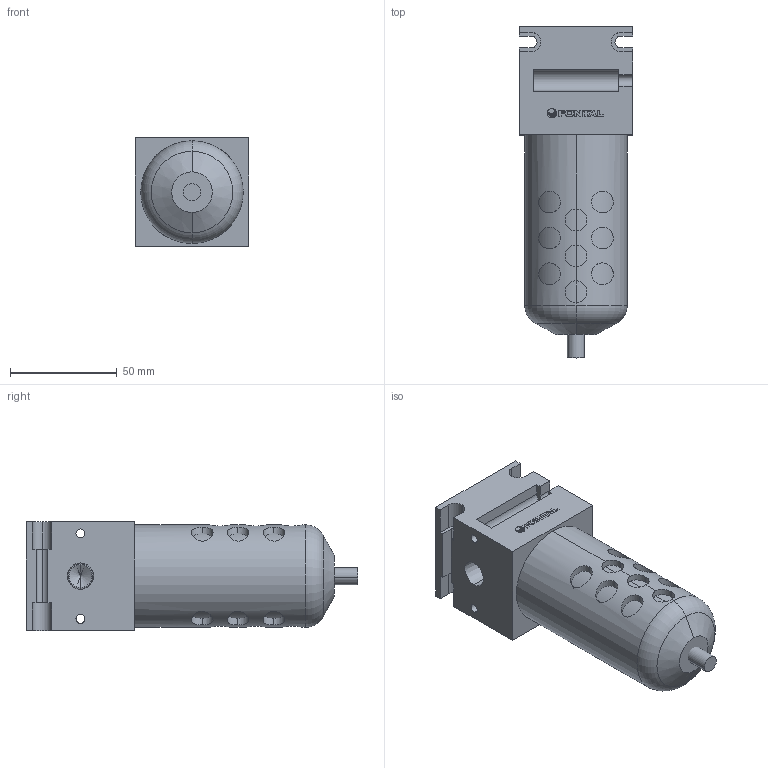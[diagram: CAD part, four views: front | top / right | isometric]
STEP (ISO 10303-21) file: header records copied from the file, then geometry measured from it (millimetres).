
FILE_DESCRIPTION (( 'STEP AP203' ), '1' );
FILE_NAME ('F55-02#Y#.STEP', '2016-01-14T18:58:39', ( '' ), ( '' ), 'SwSTEP 2.0', 'SolidWorks 2014', '' );
FILE_SCHEMA (( 'CONFIG_CONTROL_DESIGN' ));
Length unit declared in the file: millimetre
Products named in the file (5): F55-02#Y#; F55-1; Y排水; F55-2; F45-MARK
Assembly tree (4 placements, depth 2):
  F55-02#Y#
    F55-1
    F55-2
    F45-MARK
    Y排水
Bounding box: 53 x 155.5 x 51.12 mm (x, y, z)
Volume: 277386.5 mm3; surface area: 40179.9 mm2
Topology: 10 solids, 10 shells, 237 faces, 597 edges, 392 vertices
Faces by surface type: plane 109, cylinder 106, cone 12, bspline 8, torus 2
Entity records: 10296 total; most frequent: CARTESIAN_POINT 4207, ORIENTED_EDGE 1186, DIRECTION 1071, EDGE_CURVE 593, VERTEX_POINT 392, VECTOR 375, LINE 375, AXIS2_PLACEMENT_3D 348
